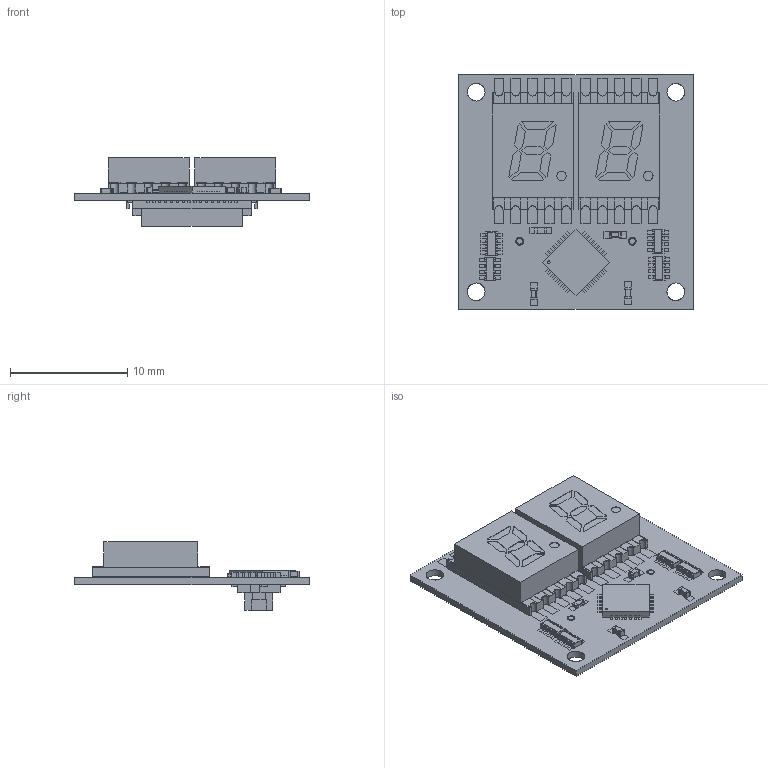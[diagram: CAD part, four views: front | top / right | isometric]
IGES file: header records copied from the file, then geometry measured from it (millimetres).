
Global section: file name: Filename.iges; native system: Open CASCADE 7.4; preprocessor: Open CASCADE IGES processor 7.4; date: 20200715.210052; units: millimetre
Bounding box: 20 x 20 x 5.85 mm (x, y, z)
Surface area: 3749.2 mm2 (no closed solid volume)
Topology: 0 solids, 0 shells, 3744 faces, 18658 edges, 21269 vertices
Faces by surface type: plane 3378, revolution 366
